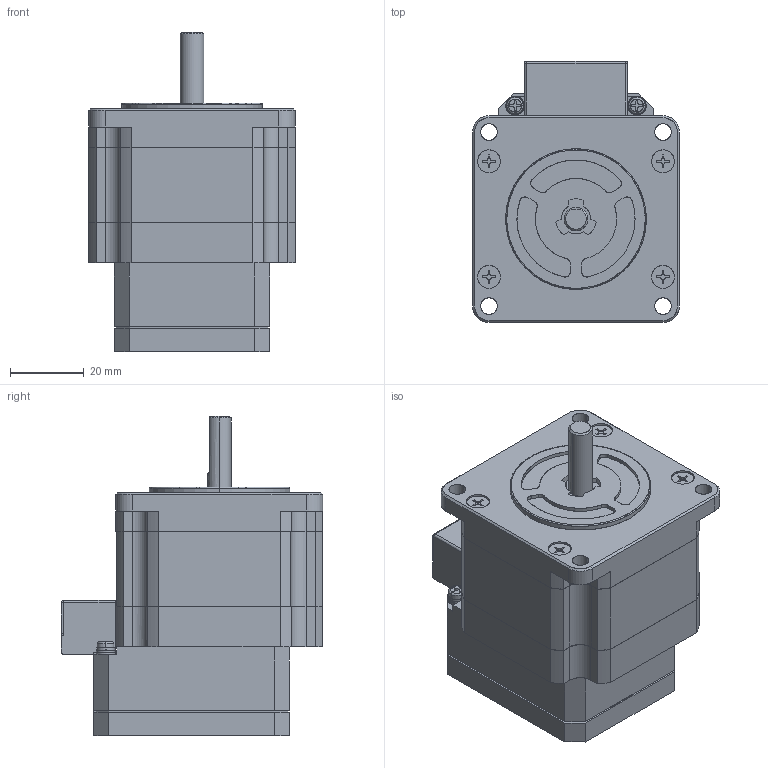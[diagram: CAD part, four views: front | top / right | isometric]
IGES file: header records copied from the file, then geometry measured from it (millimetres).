
Start section: SolidWorks IGES file using analytic representation for surfaces
Global section: file name: C:\Users\render\Documents\CAD Files\CoolmuscleMotors\CM1 Series CAD\CM1-23S-NE\CM1-X-23S30C.IGS; native system: SolidWorks 2011; preprocessor: SolidWorks 2011; author: render; date: 120206.095701; units: millimetre
Bounding box: 56 x 70.81 x 86.4 mm (x, y, z)
Surface area: 27429.9 mm2 (no closed solid volume)
Topology: 0 solids, 0 shells, 907 faces, 7799 edges, 7783 vertices
Faces by surface type: bspline 632, revolution 275
